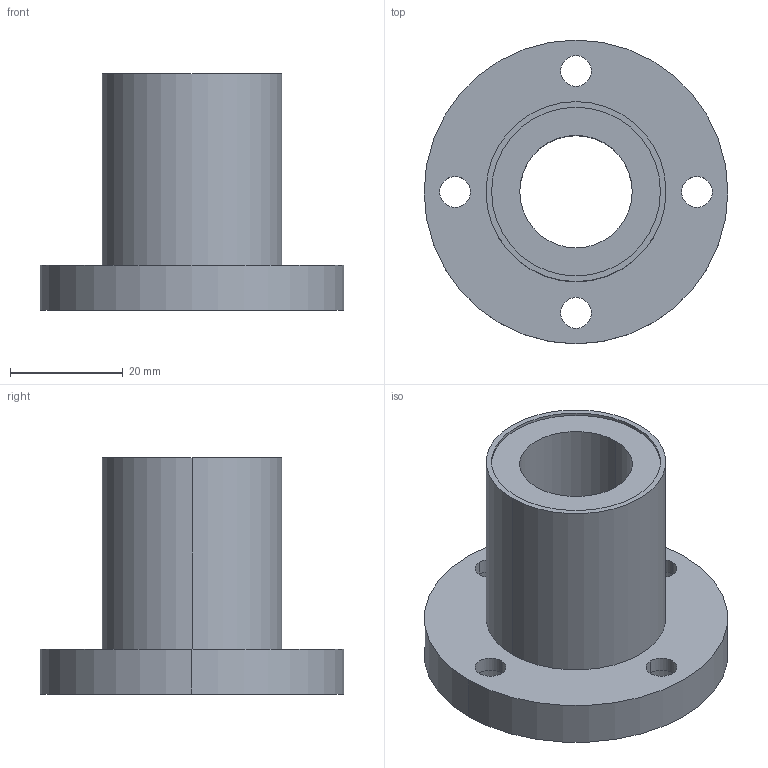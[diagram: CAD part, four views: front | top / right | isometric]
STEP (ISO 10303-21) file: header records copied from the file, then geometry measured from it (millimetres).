
FILE_DESCRIPTION((''),'2;1');
FILE_NAME('C:\Documents and Settings\ｿﾀﾀ蠑ｷ1\ｹﾙﾅﾁ ﾈｭｸ饅\ｺﾎﾇｰﾆﾄﾀﾏ\ﾁｦﾇｰ\LMF__UU\LMF20UU.stp','2005-06-15T09:37:39',('ｿﾀﾀ蠑ｷ1'),(''),'Autodesk Inventor 9','Autodesk Inventor 9','');
FILE_SCHEMA(('AUTOMOTIVE_DESIGN { 1 0 10303 214 1 1 1 1 }'));
Length unit declared in the file: millimetre
Products named in the file (1): LMF__
Bounding box: 54 x 54 x 42 mm (x, y, z)
Volume: 30232.2 mm3; surface area: 12037 mm2
Topology: 1 solids, 1 shells, 38 faces, 84 edges, 56 vertices
Faces by surface type: cylinder 28, plane 10
Entity records: 1127 total; most frequent: DIRECTION 218, CARTESIAN_POINT 179, ORIENTED_EDGE 168, AXIS2_PLACEMENT_3D 95, EDGE_CURVE 84, VERTEX_POINT 56, CIRCLE 56, EDGE_LOOP 56
